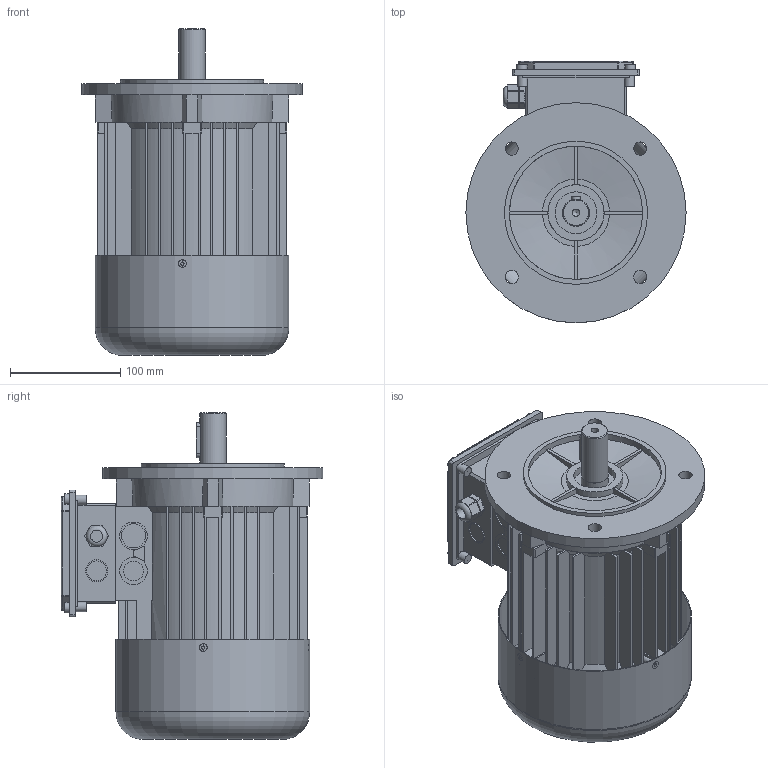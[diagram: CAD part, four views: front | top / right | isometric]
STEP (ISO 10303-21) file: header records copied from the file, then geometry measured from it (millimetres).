
FILE_DESCRIPTION(/* description */ (''),/* implementation_level */ '2;1');
FILE_NAME(/* name */ 'C:\Users\Public\Documents\Autodesk\Inventor LT 2014\Workspace\Componenti_ecoPM\3 - ECO5_90 (TG5)\ECO5_90x_xxA2.stp',/* time_stamp */ '2021-07-28T16:13:16+02:00',/* author */ ('marcor'),/* organization */ (''),/* preprocessor_version */ 'ST-DEVELOPER v15.2',/* originating_system */ 'Autodesk Inventor LT ',/* authorisation */ '');
FILE_SCHEMA (('AUTOMOTIVE_DESIGN { 1 0 10303 214 3 1 1 }'));
Length unit declared in the file: millimetre
Products named in the file (1): ECO5_90x_xxA2
Bounding box: 200 x 237.8 x 297 mm (x, y, z)
Volume: 3950488 mm3; surface area: 457245.2 mm2
Topology: 1 solids, 9 shells, 598 faces, 1567 edges, 1005 vertices
Faces by surface type: plane 367, cylinder 145, cone 74, sphere 8, torus 4
Full cylindrical faces by diameter (mm): 2.85 x4, 4.134 x8, 6.647 x1, 7 x4, 9 x4, 9.5 x4, 11 x1, 12 x4, 16 x1, 16.9 x1, 17.294 x1, 18 x4, 20 x1, 22 x2, 24 x1, 24.9 x1, 25 x4, 38 x1, 40 x1, 51 x1, 121 x1, 130 x1, 174.5 x1, 175.9 x1, 194 x1, 200 x1
Entity records: 17780 total; most frequent: CARTESIAN_POINT 3609, DIRECTION 2942, ORIENTED_EDGE 2898, EDGE_CURVE 1449, AXIS2_PLACEMENT_3D 1048, VERTEX_POINT 969, LINE 846, VECTOR 846
